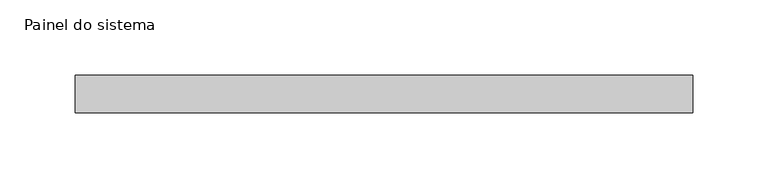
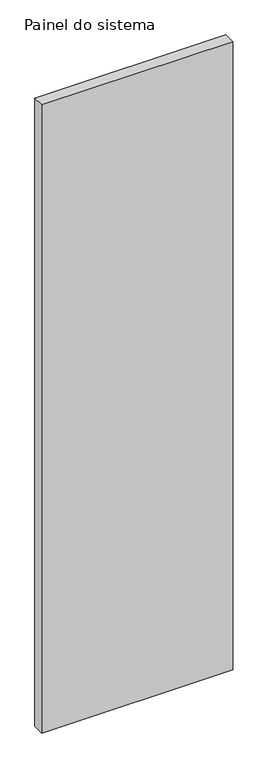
"""IFC4 building model written with IfcOpenShell, lengths in millimetres: plate geometry, Painel do sistema : Envidraçado."""

import ifcopenshell
import ifcopenshell.guid

model = None  # the IFC model being written
_history = None  # IfcOwnerHistory: only IFC2X3 demands one
_inside = {}  # id of a spatial element -> (the spatial element, [elements in it])
_under = {}  # id of a project, library or spatial element -> (it, [spatial elements below it])
_declared = {}  # id of a project -> (the project, [libraries it declares])
_typed = {}  # id of a type object -> (the type object, [elements of that type])
_made_of = {}  # id of a material, layer set ... -> (it, [elements and type objects made of it])


def new_model(schema):
    """Start an empty IFC model of exactly this schema.

    Asked for "IFC4X3", IfcOpenShell would pick the latest addendum, in which some entities
    have other attributes; the version numbers below select the first issue.
    IFC2X3 requires an IfcOwnerHistory on every rooted entity: one is made here for all.
    """
    global model, _history
    if schema == "IFC4X3":
        model = ifcopenshell.file(schema_version=(4, 3, 0, 0))
    else:
        model = ifcopenshell.file(schema=schema)
    _inside.clear()
    _under.clear()
    _declared.clear()
    _typed.clear()
    _made_of.clear()
    _history = None
    if model.schema == "IFC2X3":
        org = make("IfcOrganization", Name="unknown")
        user = make(
            "IfcPersonAndOrganization",
            ThePerson=make("IfcPerson", FamilyName="unknown"),
            TheOrganization=org,
        )
        app = make(
            "IfcApplication",
            ApplicationDeveloper=org,
            Version="unknown",
            ApplicationFullName="unknown",
            ApplicationIdentifier="unknown",
        )
        _history = make(
            "IfcOwnerHistory",
            OwningUser=user,
            OwningApplication=app,
            ChangeAction="ADDED",
            CreationDate=0,
        )
    return model


def make(cls, **values):
    """One entity of the class cls with the attributes given. An attribute that is None is left unset."""
    return model.create_entity(
        cls, **{name: value for name, value in values.items() if value is not None}
    )


def rooted(cls, **values):
    """An entity with a GlobalId (a new one), such as an element, a storey or a relation."""
    return make(cls, GlobalId=ifcopenshell.guid.new(), OwnerHistory=_history, **values)


def si_unit(unit_type, name, prefix=None):
    """IfcSIUnit, for example si_unit("LENGTHUNIT", "METRE", prefix="MILLI")."""
    return make("IfcSIUnit", UnitType=unit_type, Prefix=prefix, Name=name)


def assignment(units):
    """IfcUnitAssignment: the units of a project."""
    return None if units is None else make("IfcUnitAssignment", Units=units)


def point(xyz):
    """IfcCartesianPoint."""
    return None if xyz is None else make("IfcCartesianPoint", Coordinates=xyz)


def direction(xyz):
    """IfcDirection."""
    return None if xyz is None else make("IfcDirection", DirectionRatios=xyz)


def frame(location, z_axis=None, x_axis=None):
    """IfcAxis2Placement3D, a coordinate frame: its origin and axes. An axis left out is left unset."""
    return make(
        "IfcAxis2Placement3D",
        Location=point(location),
        Axis=direction(z_axis),
        RefDirection=direction(x_axis),
    )


def origin():
    """The frame at (0, 0, 0) with its axes left unset."""
    return frame((0.0, 0.0, 0.0))


def origin_with_axes():
    """The frame at (0, 0, 0) with the z axis (0, 0, 1) and the x axis (1, 0, 0) written out."""
    return frame((0.0, 0.0, 0.0), z_axis=(0.0, 0.0, 1.0), x_axis=(1.0, 0.0, 0.0))


def place(relative_to, where):
    """IfcLocalPlacement: puts the frame where relative to a parent placement (None: the world)."""
    return make(
        "IfcLocalPlacement", PlacementRelTo=relative_to, RelativePlacement=where
    )


def context(
    kind, dimensions, precision=None, world=None, true_north=None, identifier=None
):
    """IfcGeometricRepresentationContext, for example the 3D "Model" context."""
    return make(
        "IfcGeometricRepresentationContext",
        ContextIdentifier=identifier,
        ContextType=kind,
        CoordinateSpaceDimension=dimensions,
        Precision=precision,
        WorldCoordinateSystem=world,
        TrueNorth=true_north,
    )


def project(units=None, contexts=None):
    """IfcProject with its units and contexts."""
    return rooted(
        "IfcProject",
        Name="project",
        RepresentationContexts=contexts,
        UnitsInContext=assignment(units),
    )


def spatial(cls, under=None, at=None, **own):
    """A site, building, storey or space (cls), placed at a placement, below another one or the project."""
    s = rooted(cls, ObjectPlacement=at, **own)
    if under is not None:
        _under.setdefault(under.id(), (under, []))[1].append(s)
    return s


def polyline(points):
    """IfcPolyline through the points."""
    return make("IfcPolyline", Points=[point(p) for p in points])


def outline(outer, holes=None, kind="AREA"):
    """IfcArbitraryClosedProfileDef: a profile drawn as a closed curve; with holes, ...WithVoids."""
    if holes is None:
        return make("IfcArbitraryClosedProfileDef", ProfileType=kind, OuterCurve=outer)
    return make(
        "IfcArbitraryProfileDefWithVoids",
        ProfileType=kind,
        OuterCurve=outer,
        InnerCurves=holes,
    )


def extrude(swept, where, along, depth):
    """IfcExtrudedAreaSolid: the profile swept, set in the frame where, extruded along a direction by depth."""
    return make(
        "IfcExtrudedAreaSolid",
        SweptArea=swept,
        Position=where,
        ExtrudedDirection=direction(along),
        Depth=depth,
    )


def shape(context_of_items, identifier, shape_type, items):
    """IfcShapeRepresentation: the items that make up one representation, for example the "Body"."""
    return make(
        "IfcShapeRepresentation",
        ContextOfItems=context_of_items,
        RepresentationIdentifier=identifier,
        RepresentationType=shape_type,
        Items=items,
    )


def source(mapping_origin, context_of_items, identifier, shape_type, items):
    """IfcRepresentationMap: a shape defined once, which mapped items show again and again."""
    return make(
        "IfcRepresentationMap",
        MappingOrigin=mapping_origin,
        MappedRepresentation=shape(context_of_items, identifier, shape_type, items),
    )


def transform(
    local_origin,
    x_axis=None,
    y_axis=None,
    z_axis=None,
    scale=None,
    scale2=None,
    scale3=None,
    uniform=True,
):
    """IfcCartesianTransformationOperator3D, or its non-uniform kind. x_axis, y_axis, z_axis: its Axis1, 2, 3."""
    if uniform:
        return make(
            "IfcCartesianTransformationOperator3D",
            Axis1=direction(x_axis),
            Axis2=direction(y_axis),
            LocalOrigin=point(local_origin),
            Scale=scale,
            Axis3=direction(z_axis),
        )
    return make(
        "IfcCartesianTransformationOperator3DnonUniform",
        Axis1=direction(x_axis),
        Axis2=direction(y_axis),
        LocalOrigin=point(local_origin),
        Scale=scale,
        Axis3=direction(z_axis),
        Scale2=scale2,
        Scale3=scale3,
    )


def mapped(mapping_source, mapping_target):
    """IfcMappedItem: shows the shape of a source again, moved by a transform."""
    return make(
        "IfcMappedItem", MappingSource=mapping_source, MappingTarget=mapping_target
    )


def made_of(thing, what):
    """Note that an element or type object is made of a material, layer set ...; save() writes the relation."""
    if what is not None:
        _made_of.setdefault(what.id(), (what, []))[1].append(thing)
    return thing


def element(
    cls,
    number,
    at=None,
    inside=None,
    cuts=None,
    type_object=None,
    material=None,
    context=None,
    identifier="Body",
    shape_type=None,
    held_by="IfcProductDefinitionShape",
    body=None,
    shapes=None,
    **own,
):
    """One element of the class cls, such as IfcWall. Its Tag is "e" and its number.

    at: its placement. inside: the storey or other place that contains it. cuts: it is an
    opening in that element (IfcRelVoidsElement). A single representation is given by context,
    identifier, shape_type and body (its items); several are given by shapes. held_by: the class
    of the entity that holds the representations. save() writes the other relations.
    """
    e = rooted(cls, Tag="e%d" % number, ObjectPlacement=at, **own)
    if body is not None:
        shapes = [shape(context, identifier, shape_type, body)]
    if shapes is not None:
        e.Representation = make(held_by, Representations=shapes)
    if inside is not None:
        _inside.setdefault(inside.id(), (inside, []))[1].append(e)
    if cuts is not None:
        rooted(
            "IfcRelVoidsElement", RelatingBuildingElement=cuts, RelatedOpeningElement=e
        )
    if type_object is not None:
        _typed.setdefault(type_object.id(), (type_object, []))[1].append(e)
    return made_of(e, material)


def aggregate(whole, parts):
    """IfcRelAggregates: a whole, such as a stair, and the parts it consists of."""
    return rooted("IfcRelAggregates", RelatingObject=whole, RelatedObjects=parts)


def save(model, path):
    """Write the relations noted so far, then the file.

    IfcRelAggregates (storeys below a building ...), IfcRelContainedInSpatialStructure (elements
    in a storey), IfcRelDefinesByType, IfcRelAssociatesMaterial and IfcRelDeclares: one each for
    every whole, place, type object, material and project.
    """
    for whole, parts in _under.values():
        aggregate(whole, parts)
    for where, things in _inside.values():
        rooted(
            "IfcRelContainedInSpatialStructure",
            RelatedElements=things,
            RelatingStructure=where,
        )
    for kind, things in _typed.values():
        rooted("IfcRelDefinesByType", RelatedObjects=things, RelatingType=kind)
    for what, things in _made_of.values():
        rooted("IfcRelAssociatesMaterial", RelatedObjects=things, RelatingMaterial=what)
    for by, libraries in _declared.values():
        rooted("IfcRelDeclares", RelatingContext=by, RelatedDefinitions=libraries)
    model.write(path)


def painel_do_sistema_d5e11914(model_context):
    return source(origin(), model_context, "Body", "SweptSolid", [
        extrude(outline(polyline([(204.8718588, -49.5), (-204.8718588, -49.5), (-204.8718588, -24.5), (204.8718588, -24.5), (204.8718588, -49.5)])), origin_with_axes(), (0.0, 0.0, 1.0), 1425.0),
    ])


if __name__ == "__main__":
    model = new_model("IFC4")
    model_context = context("Model", 3, world=origin())
    ifc_project = project(units=[si_unit("LENGTHUNIT", "METRE", prefix="MILLI")], contexts=[model_context])
    site = spatial("IfcSite", under=ifc_project)
    building = spatial("IfcBuilding", under=site)
    placement = place(None, origin())
    painel_do_sistema_shape = painel_do_sistema_d5e11914(model_context)
    element("IfcPlate", 1, ObjectType="Painel do sistema : Envidraçado", at=placement, inside=building, context=model_context, shape_type="MappedRepresentation", body=[
        mapped(painel_do_sistema_shape, transform((0.0, 0.0, 0.0), x_axis=(1.0, 0.0, 0.0), y_axis=(0.0, 1.0, 0.0), z_axis=(0.0, 0.0, 1.0))),
    ])
    save(model, "model.ifc")
